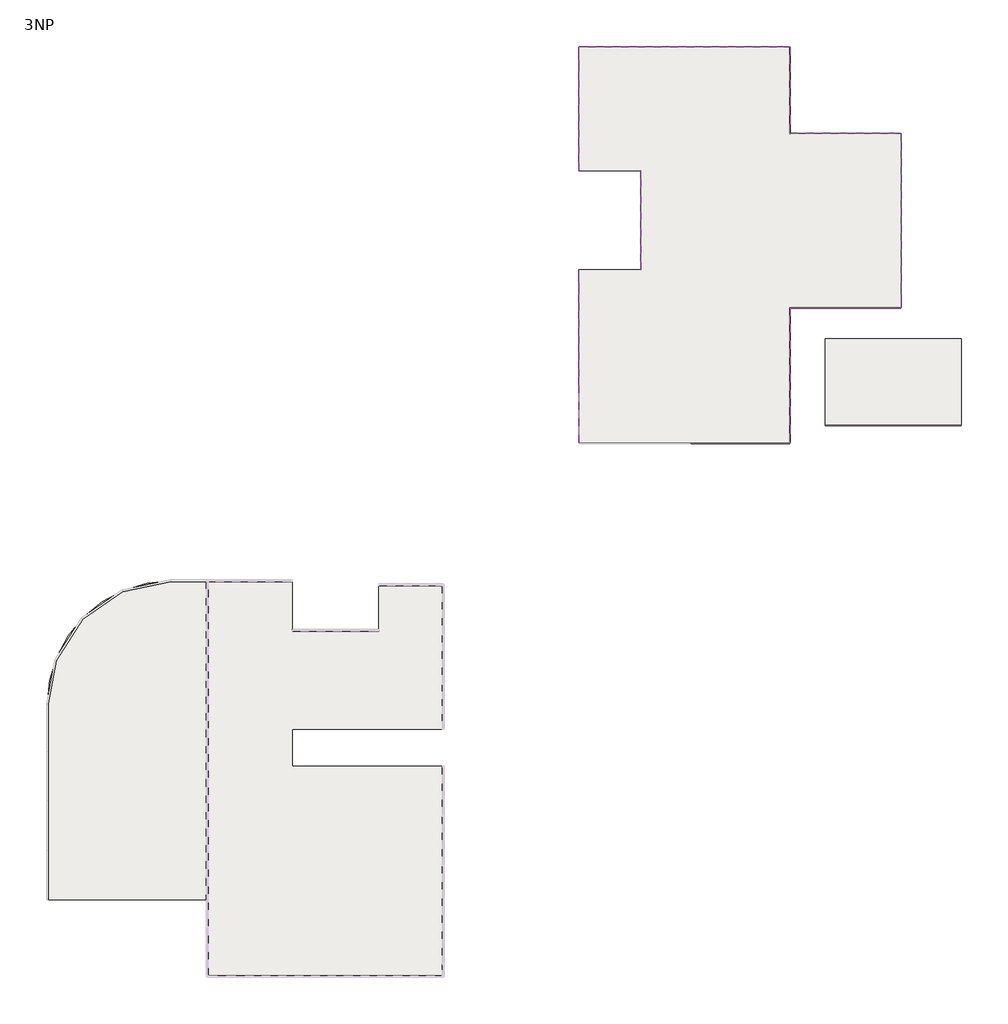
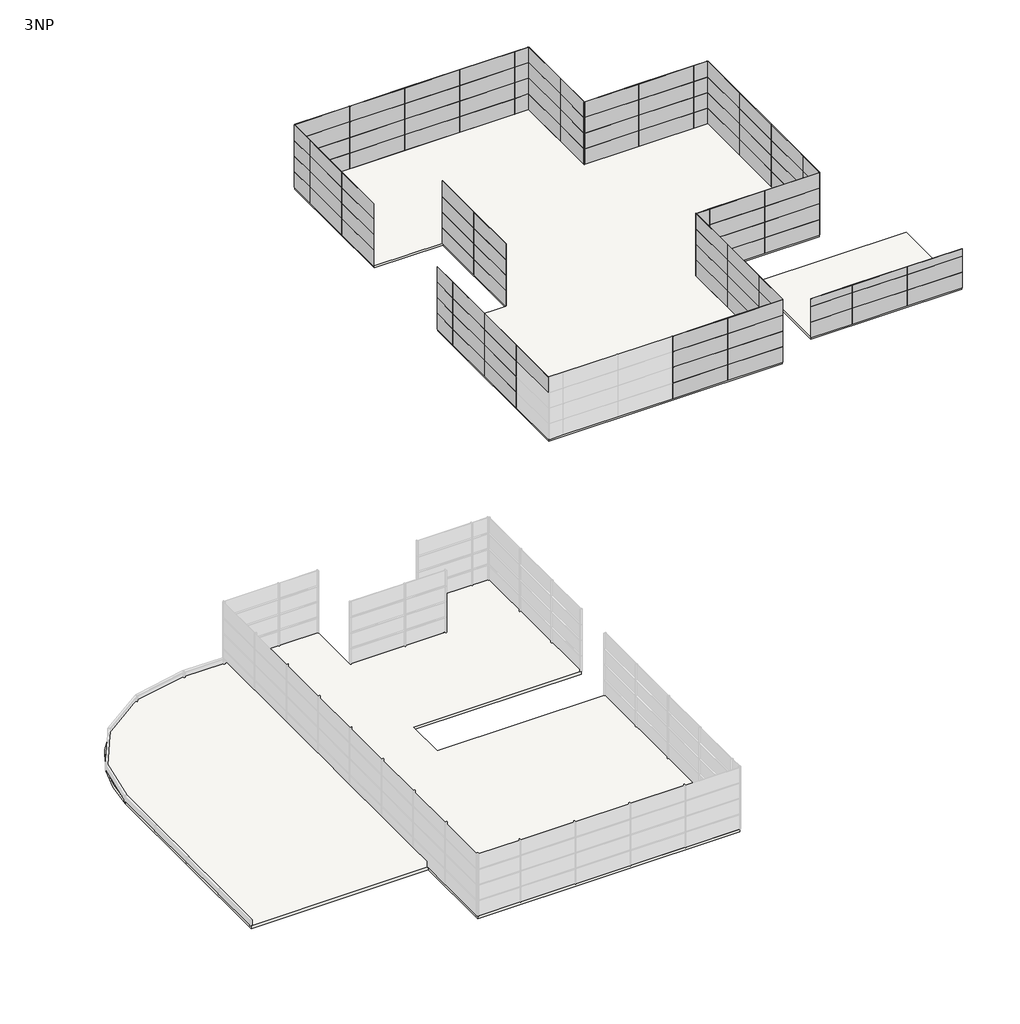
# One storey, part 4 of 4: 130 plates, 2 slabs.
"""IFC4 building model written with IfcOpenShell, lengths in millimetres."""

from ifc_helpers import new_model, si_unit, point, frame, frame_2d, origin, place, context, project, spatial, polyline, circle_curve, trimmed, segment, composite_curve, outline, extrude, transform, mapped, element, save
from components import system_panel_glazed_d6eabcf1, system_panel_glazed_926b6355, system_panel_glazed_d9fb9d0a, system_panel_glazed_4df6a082, system_panel_glazed_a266fa70, system_panel_glazed_e93bef2a, system_panel_glazed_76089698, system_panel_glazed_7578c6fa

model = new_model("IFC4")

# Units and contexts
model_context = context("Model", 3, world=origin())
ifc_project = project(units=[si_unit("LENGTHUNIT", "METRE", prefix="MILLI")], contexts=[model_context])

# Site, building, storey
site = spatial("IfcSite", under=ifc_project)
building = spatial("IfcBuilding", under=site)
storey = spatial("IfcBuildingStorey", under=building, Name="3NP", Elevation=12000.0)

# Plates
placement = place(None, origin())
system_panel_glazed_shape = system_panel_glazed_d6eabcf1(model_context)
element("IfcPlate", 1, ObjectType="System Panel : Glazed", at=placement, inside=storey, context=model_context, shape_type="MappedRepresentation", body=[
    mapped(system_panel_glazed_shape, transform((39503.2660975, 19519.7749227, 12000.0), x_axis=(-1.0, 0.0, 0.0), y_axis=(0.0, -1.0, 0.0), z_axis=(0.0, 0.0, 1.0))),
])
element("IfcPlate", 2, ObjectType="System Panel : Glazed", at=placement, inside=storey, context=model_context, shape_type="MappedRepresentation", body=[
    mapped(system_panel_glazed_shape, transform((35503.2660975, 19519.7749227, 12000.0), x_axis=(-1.0, 0.0, 0.0), y_axis=(0.0, -1.0, 0.0), z_axis=(0.0, 0.0, 1.0))),
])
element("IfcPlate", 3, ObjectType="System Panel : Glazed", at=placement, inside=storey, context=model_context, shape_type="MappedRepresentation", body=[
    mapped(system_panel_glazed_shape, transform((39503.2660975, 19519.7749227, 13200.0), x_axis=(-1.0, 0.0, 0.0), y_axis=(0.0, -1.0, 0.0), z_axis=(0.0, 0.0, 1.0))),
])
element("IfcPlate", 4, ObjectType="System Panel : Glazed", at=placement, inside=storey, context=model_context, shape_type="MappedRepresentation", body=[
    mapped(system_panel_glazed_shape, transform((35503.2660975, 19519.7749227, 13200.0), x_axis=(-1.0, 0.0, 0.0), y_axis=(0.0, -1.0, 0.0), z_axis=(0.0, 0.0, 1.0))),
])
element("IfcPlate", 5, ObjectType="System Panel : Glazed", at=placement, inside=storey, context=model_context, shape_type="MappedRepresentation", body=[
    mapped(system_panel_glazed_shape, transform((39503.2660975, 19519.7749227, 14400.0), x_axis=(-1.0, 0.0, 0.0), y_axis=(0.0, -1.0, 0.0), z_axis=(0.0, 0.0, 1.0))),
])
element("IfcPlate", 6, ObjectType="System Panel : Glazed", at=placement, inside=storey, context=model_context, shape_type="MappedRepresentation", body=[
    mapped(system_panel_glazed_shape, transform((35503.2660975, 19519.7749227, 14400.0), x_axis=(-1.0, 0.0, 0.0), y_axis=(0.0, -1.0, 0.0), z_axis=(0.0, 0.0, 1.0))),
])
element("IfcPlate", 7, ObjectType="System Panel : Glazed", at=placement, inside=storey, context=model_context, shape_type="MappedRepresentation", body=[
    mapped(system_panel_glazed_shape, transform((39503.2660975, 19519.7749227, 15600.0), x_axis=(-1.0, 0.0, 0.0), y_axis=(0.0, -1.0, 0.0), z_axis=(0.0, 0.0, 1.0))),
])
element("IfcPlate", 8, ObjectType="System Panel : Glazed", at=placement, inside=storey, context=model_context, shape_type="MappedRepresentation", body=[
    mapped(system_panel_glazed_shape, transform((35503.2660975, 19519.7749227, 15600.0), x_axis=(-1.0, 0.0, 0.0), y_axis=(0.0, -1.0, 0.0), z_axis=(0.0, 0.0, 1.0))),
])
element("IfcPlate", 9, ObjectType="System Panel : Glazed", at=placement, inside=storey, context=model_context, shape_type="MappedRepresentation", body=[
    mapped(system_panel_glazed_shape, transform((24503.2660975, 25519.7749227, 12000.0), x_axis=(0.0, 1.0, 0.0), y_axis=(-1.0, 0.0, 0.0), z_axis=(0.0, 0.0, 1.0))),
])
element("IfcPlate", 10, ObjectType="System Panel : Glazed", at=placement, inside=storey, context=model_context, shape_type="MappedRepresentation", body=[
    mapped(system_panel_glazed_shape, transform((24503.2660975, 29519.7749227, 12000.0), x_axis=(0.0, 1.0, 0.0), y_axis=(-1.0, 0.0, 0.0), z_axis=(0.0, 0.0, 1.0))),
])
element("IfcPlate", 11, ObjectType="System Panel : Glazed", at=placement, inside=storey, context=model_context, shape_type="MappedRepresentation", body=[
    mapped(system_panel_glazed_shape, transform((24503.2660975, 25519.7749227, 13200.0), x_axis=(0.0, 1.0, 0.0), y_axis=(-1.0, 0.0, 0.0), z_axis=(0.0, 0.0, 1.0))),
])
element("IfcPlate", 12, ObjectType="System Panel : Glazed", at=placement, inside=storey, context=model_context, shape_type="MappedRepresentation", body=[
    mapped(system_panel_glazed_shape, transform((24503.2660975, 29519.7749227, 13200.0), x_axis=(0.0, 1.0, 0.0), y_axis=(-1.0, 0.0, 0.0), z_axis=(0.0, 0.0, 1.0))),
])
element("IfcPlate", 13, ObjectType="System Panel : Glazed", at=placement, inside=storey, context=model_context, shape_type="MappedRepresentation", body=[
    mapped(system_panel_glazed_shape, transform((24503.2660975, 25519.7749227, 14400.0), x_axis=(0.0, 1.0, 0.0), y_axis=(-1.0, 0.0, 0.0), z_axis=(0.0, 0.0, 1.0))),
])
element("IfcPlate", 14, ObjectType="System Panel : Glazed", at=placement, inside=storey, context=model_context, shape_type="MappedRepresentation", body=[
    mapped(system_panel_glazed_shape, transform((24503.2660975, 29519.7749227, 14400.0), x_axis=(0.0, 1.0, 0.0), y_axis=(-1.0, 0.0, 0.0), z_axis=(0.0, 0.0, 1.0))),
])
element("IfcPlate", 15, ObjectType="System Panel : Glazed", at=placement, inside=storey, context=model_context, shape_type="MappedRepresentation", body=[
    mapped(system_panel_glazed_shape, transform((24503.2660975, 21519.7749227, 15600.0), x_axis=(0.0, 1.0, 0.0), y_axis=(-1.0, 0.0, 0.0), z_axis=(0.0, 0.0, 1.0))),
])
element("IfcPlate", 16, ObjectType="System Panel : Glazed", at=placement, inside=storey, context=model_context, shape_type="MappedRepresentation", body=[
    mapped(system_panel_glazed_shape, transform((24503.2660975, 25519.7749227, 15600.0), x_axis=(0.0, 1.0, 0.0), y_axis=(-1.0, 0.0, 0.0), z_axis=(0.0, 0.0, 1.0))),
])
element("IfcPlate", 17, ObjectType="System Panel : Glazed", at=placement, inside=storey, context=model_context, shape_type="MappedRepresentation", body=[
    mapped(system_panel_glazed_shape, transform((24503.2660975, 29519.7749227, 15600.0), x_axis=(0.0, 1.0, 0.0), y_axis=(-1.0, 0.0, 0.0), z_axis=(0.0, 0.0, 1.0))),
])
element("IfcPlate", 18, ObjectType="System Panel : Glazed", at=placement, inside=storey, context=model_context, shape_type="MappedRepresentation", body=[
    mapped(system_panel_glazed_shape, transform((29503.2660975, 35519.7749227, 12000.0), x_axis=(0.0, 1.0, 0.0), y_axis=(-1.0, 0.0, 0.0), z_axis=(0.0, 0.0, 1.0))),
])
element("IfcPlate", 19, ObjectType="System Panel : Glazed", at=placement, inside=storey, context=model_context, shape_type="MappedRepresentation", body=[
    mapped(system_panel_glazed_shape, transform((29503.2660975, 39519.7749227, 12000.0), x_axis=(0.0, 1.0, 0.0), y_axis=(-1.0, 0.0, 0.0), z_axis=(0.0, 0.0, 1.0))),
])
element("IfcPlate", 20, ObjectType="System Panel : Glazed", at=placement, inside=storey, context=model_context, shape_type="MappedRepresentation", body=[
    mapped(system_panel_glazed_shape, transform((29503.2660975, 35519.7749227, 13200.0), x_axis=(0.0, 1.0, 0.0), y_axis=(-1.0, 0.0, 0.0), z_axis=(0.0, 0.0, 1.0))),
])
element("IfcPlate", 21, ObjectType="System Panel : Glazed", at=placement, inside=storey, context=model_context, shape_type="MappedRepresentation", body=[
    mapped(system_panel_glazed_shape, transform((29503.2660975, 39519.7749227, 13200.0), x_axis=(0.0, 1.0, 0.0), y_axis=(-1.0, 0.0, 0.0), z_axis=(0.0, 0.0, 1.0))),
])
element("IfcPlate", 22, ObjectType="System Panel : Glazed", at=placement, inside=storey, context=model_context, shape_type="MappedRepresentation", body=[
    mapped(system_panel_glazed_shape, transform((29503.2660975, 35519.7749227, 14400.0), x_axis=(0.0, 1.0, 0.0), y_axis=(-1.0, 0.0, 0.0), z_axis=(0.0, 0.0, 1.0))),
])
element("IfcPlate", 23, ObjectType="System Panel : Glazed", at=placement, inside=storey, context=model_context, shape_type="MappedRepresentation", body=[
    mapped(system_panel_glazed_shape, transform((29503.2660975, 39519.7749227, 14400.0), x_axis=(0.0, 1.0, 0.0), y_axis=(-1.0, 0.0, 0.0), z_axis=(0.0, 0.0, 1.0))),
])
element("IfcPlate", 24, ObjectType="System Panel : Glazed", at=placement, inside=storey, context=model_context, shape_type="MappedRepresentation", body=[
    mapped(system_panel_glazed_shape, transform((29503.2660975, 35519.7749227, 15600.0), x_axis=(0.0, 1.0, 0.0), y_axis=(-1.0, 0.0, 0.0), z_axis=(0.0, 0.0, 1.0))),
])
element("IfcPlate", 25, ObjectType="System Panel : Glazed", at=placement, inside=storey, context=model_context, shape_type="MappedRepresentation", body=[
    mapped(system_panel_glazed_shape, transform((29503.2660975, 39519.7749227, 15600.0), x_axis=(0.0, 1.0, 0.0), y_axis=(-1.0, 0.0, 0.0), z_axis=(0.0, 0.0, 1.0))),
])
element("IfcPlate", 26, ObjectType="System Panel : Glazed", at=placement, inside=storey, context=model_context, shape_type="MappedRepresentation", body=[
    mapped(system_panel_glazed_shape, transform((24503.2660975, 43519.7749227, 12000.0), x_axis=(0.0, 1.0, 0.0), y_axis=(-1.0, 0.0, 0.0), z_axis=(0.0, 0.0, 1.0))),
])
element("IfcPlate", 27, ObjectType="System Panel : Glazed", at=placement, inside=storey, context=model_context, shape_type="MappedRepresentation", body=[
    mapped(system_panel_glazed_shape, transform((24503.2660975, 47519.7749227, 12000.0), x_axis=(0.0, 1.0, 0.0), y_axis=(-1.0, 0.0, 0.0), z_axis=(0.0, 0.0, 1.0))),
])
element("IfcPlate", 28, ObjectType="System Panel : Glazed", at=placement, inside=storey, context=model_context, shape_type="MappedRepresentation", body=[
    mapped(system_panel_glazed_shape, transform((24503.2660975, 43519.7749227, 13200.0), x_axis=(0.0, 1.0, 0.0), y_axis=(-1.0, 0.0, 0.0), z_axis=(0.0, 0.0, 1.0))),
])
element("IfcPlate", 29, ObjectType="System Panel : Glazed", at=placement, inside=storey, context=model_context, shape_type="MappedRepresentation", body=[
    mapped(system_panel_glazed_shape, transform((24503.2660975, 47519.7749227, 13200.0), x_axis=(0.0, 1.0, 0.0), y_axis=(-1.0, 0.0, 0.0), z_axis=(0.0, 0.0, 1.0))),
])
element("IfcPlate", 30, ObjectType="System Panel : Glazed", at=placement, inside=storey, context=model_context, shape_type="MappedRepresentation", body=[
    mapped(system_panel_glazed_shape, transform((24503.2660975, 43519.7749227, 14400.0), x_axis=(0.0, 1.0, 0.0), y_axis=(-1.0, 0.0, 0.0), z_axis=(0.0, 0.0, 1.0))),
])
element("IfcPlate", 31, ObjectType="System Panel : Glazed", at=placement, inside=storey, context=model_context, shape_type="MappedRepresentation", body=[
    mapped(system_panel_glazed_shape, transform((24503.2660975, 47519.7749227, 14400.0), x_axis=(0.0, 1.0, 0.0), y_axis=(-1.0, 0.0, 0.0), z_axis=(0.0, 0.0, 1.0))),
])
element("IfcPlate", 32, ObjectType="System Panel : Glazed", at=placement, inside=storey, context=model_context, shape_type="MappedRepresentation", body=[
    mapped(system_panel_glazed_shape, transform((24503.2660975, 43519.7749227, 15600.0), x_axis=(0.0, 1.0, 0.0), y_axis=(-1.0, 0.0, 0.0), z_axis=(0.0, 0.0, 1.0))),
])
element("IfcPlate", 33, ObjectType="System Panel : Glazed", at=placement, inside=storey, context=model_context, shape_type="MappedRepresentation", body=[
    mapped(system_panel_glazed_shape, transform((24503.2660975, 47519.7749227, 15600.0), x_axis=(0.0, 1.0, 0.0), y_axis=(-1.0, 0.0, 0.0), z_axis=(0.0, 0.0, 1.0))),
])
element("IfcPlate", 34, ObjectType="System Panel : Glazed", at=placement, inside=storey, context=model_context, shape_type="MappedRepresentation", body=[
    mapped(system_panel_glazed_shape, transform((48503.2660975, 30457.4517739, 12000.0), x_axis=(-1.0, 0.0, 0.0), y_axis=(0.0, -1.0, 0.0), z_axis=(0.0, 0.0, 1.0))),
])
element("IfcPlate", 35, ObjectType="System Panel : Glazed", at=placement, inside=storey, context=model_context, shape_type="MappedRepresentation", body=[
    mapped(system_panel_glazed_shape, transform((44503.2660975, 30457.4517739, 12000.0), x_axis=(-1.0, 0.0, 0.0), y_axis=(0.0, -1.0, 0.0), z_axis=(0.0, 0.0, 1.0))),
])
element("IfcPlate", 36, ObjectType="System Panel : Glazed", at=placement, inside=storey, context=model_context, shape_type="MappedRepresentation", body=[
    mapped(system_panel_glazed_shape, transform((48503.2660975, 30457.4517739, 13200.0), x_axis=(-1.0, 0.0, 0.0), y_axis=(0.0, -1.0, 0.0), z_axis=(0.0, 0.0, 1.0))),
])
element("IfcPlate", 37, ObjectType="System Panel : Glazed", at=placement, inside=storey, context=model_context, shape_type="MappedRepresentation", body=[
    mapped(system_panel_glazed_shape, transform((44503.2660975, 30457.4517739, 13200.0), x_axis=(-1.0, 0.0, 0.0), y_axis=(0.0, -1.0, 0.0), z_axis=(0.0, 0.0, 1.0))),
])
element("IfcPlate", 38, ObjectType="System Panel : Glazed", at=placement, inside=storey, context=model_context, shape_type="MappedRepresentation", body=[
    mapped(system_panel_glazed_shape, transform((48503.2660975, 30457.4517739, 14400.0), x_axis=(-1.0, 0.0, 0.0), y_axis=(0.0, -1.0, 0.0), z_axis=(0.0, 0.0, 1.0))),
])
element("IfcPlate", 39, ObjectType="System Panel : Glazed", at=placement, inside=storey, context=model_context, shape_type="MappedRepresentation", body=[
    mapped(system_panel_glazed_shape, transform((44503.2660975, 30457.4517739, 14400.0), x_axis=(-1.0, 0.0, 0.0), y_axis=(0.0, -1.0, 0.0), z_axis=(0.0, 0.0, 1.0))),
])
element("IfcPlate", 40, ObjectType="System Panel : Glazed", at=placement, inside=storey, context=model_context, shape_type="MappedRepresentation", body=[
    mapped(system_panel_glazed_shape, transform((48503.2660975, 30457.4517739, 15600.0), x_axis=(-1.0, 0.0, 0.0), y_axis=(0.0, -1.0, 0.0), z_axis=(0.0, 0.0, 1.0))),
])
element("IfcPlate", 41, ObjectType="System Panel : Glazed", at=placement, inside=storey, context=model_context, shape_type="MappedRepresentation", body=[
    mapped(system_panel_glazed_shape, transform((44503.2660975, 30457.4517739, 15600.0), x_axis=(-1.0, 0.0, 0.0), y_axis=(0.0, -1.0, 0.0), z_axis=(0.0, 0.0, 1.0))),
])
element("IfcPlate", 42, ObjectType="System Panel : Glazed", at=placement, inside=storey, context=model_context, shape_type="MappedRepresentation", body=[
    mapped(system_panel_glazed_shape, transform((53401.4778879, 20957.9625489, 12000.0), x_axis=(-1.0, 0.0, 0.0), y_axis=(0.0, -1.0, 0.0), z_axis=(0.0, 0.0, 1.0))),
])
element("IfcPlate", 43, ObjectType="System Panel : Glazed", at=placement, inside=storey, context=model_context, shape_type="MappedRepresentation", body=[
    mapped(system_panel_glazed_shape, transform((49401.4778879, 20957.9625489, 12000.0), x_axis=(-1.0, 0.0, 0.0), y_axis=(0.0, -1.0, 0.0), z_axis=(0.0, 0.0, 1.0))),
])
element("IfcPlate", 44, ObjectType="System Panel : Glazed", at=placement, inside=storey, context=model_context, shape_type="MappedRepresentation", body=[
    mapped(system_panel_glazed_shape, transform((53401.4778879, 20957.9625489, 13200.0), x_axis=(-1.0, 0.0, 0.0), y_axis=(0.0, -1.0, 0.0), z_axis=(0.0, 0.0, 1.0))),
])
element("IfcPlate", 45, ObjectType="System Panel : Glazed", at=placement, inside=storey, context=model_context, shape_type="MappedRepresentation", body=[
    mapped(system_panel_glazed_shape, transform((49401.4778879, 20957.9625489, 13200.0), x_axis=(-1.0, 0.0, 0.0), y_axis=(0.0, -1.0, 0.0), z_axis=(0.0, 0.0, 1.0))),
])
element("IfcPlate", 46, ObjectType="System Panel : Glazed", at=placement, inside=storey, context=model_context, shape_type="MappedRepresentation", body=[
    mapped(system_panel_glazed_shape, transform((26503.2660975, 51519.7749227, 12000.0), x_axis=(1.0, 0.0, 0.0), y_axis=(0.0, 1.0, 0.0), z_axis=(0.0, 0.0, 1.0))),
])
element("IfcPlate", 47, ObjectType="System Panel : Glazed", at=placement, inside=storey, context=model_context, shape_type="MappedRepresentation", body=[
    mapped(system_panel_glazed_shape, transform((30503.2660975, 51519.7749227, 12000.0), x_axis=(1.0, 0.0, 0.0), y_axis=(0.0, 1.0, 0.0), z_axis=(0.0, 0.0, 1.0))),
])
element("IfcPlate", 48, ObjectType="System Panel : Glazed", at=placement, inside=storey, context=model_context, shape_type="MappedRepresentation", body=[
    mapped(system_panel_glazed_shape, transform((34503.2660975, 51519.7749227, 12000.0), x_axis=(1.0, 0.0, 0.0), y_axis=(0.0, 1.0, 0.0), z_axis=(0.0, 0.0, 1.0))),
])
element("IfcPlate", 49, ObjectType="System Panel : Glazed", at=placement, inside=storey, context=model_context, shape_type="MappedRepresentation", body=[
    mapped(system_panel_glazed_shape, transform((38503.2660975, 51519.7749227, 12000.0), x_axis=(1.0, 0.0, 0.0), y_axis=(0.0, 1.0, 0.0), z_axis=(0.0, 0.0, 1.0))),
])
element("IfcPlate", 50, ObjectType="System Panel : Glazed", at=placement, inside=storey, context=model_context, shape_type="MappedRepresentation", body=[
    mapped(system_panel_glazed_shape, transform((26503.2660975, 51519.7749227, 13200.0), x_axis=(1.0, 0.0, 0.0), y_axis=(0.0, 1.0, 0.0), z_axis=(0.0, 0.0, 1.0))),
])
element("IfcPlate", 51, ObjectType="System Panel : Glazed", at=placement, inside=storey, context=model_context, shape_type="MappedRepresentation", body=[
    mapped(system_panel_glazed_shape, transform((30503.2660975, 51519.7749227, 13200.0), x_axis=(1.0, 0.0, 0.0), y_axis=(0.0, 1.0, 0.0), z_axis=(0.0, 0.0, 1.0))),
])
element("IfcPlate", 52, ObjectType="System Panel : Glazed", at=placement, inside=storey, context=model_context, shape_type="MappedRepresentation", body=[
    mapped(system_panel_glazed_shape, transform((34503.2660975, 51519.7749227, 13200.0), x_axis=(1.0, 0.0, 0.0), y_axis=(0.0, 1.0, 0.0), z_axis=(0.0, 0.0, 1.0))),
])
element("IfcPlate", 53, ObjectType="System Panel : Glazed", at=placement, inside=storey, context=model_context, shape_type="MappedRepresentation", body=[
    mapped(system_panel_glazed_shape, transform((38503.2660975, 51519.7749227, 13200.0), x_axis=(1.0, 0.0, 0.0), y_axis=(0.0, 1.0, 0.0), z_axis=(0.0, 0.0, 1.0))),
])
element("IfcPlate", 54, ObjectType="System Panel : Glazed", at=placement, inside=storey, context=model_context, shape_type="MappedRepresentation", body=[
    mapped(system_panel_glazed_shape, transform((26503.2660975, 51519.7749227, 14400.0), x_axis=(1.0, 0.0, 0.0), y_axis=(0.0, 1.0, 0.0), z_axis=(0.0, 0.0, 1.0))),
])
element("IfcPlate", 55, ObjectType="System Panel : Glazed", at=placement, inside=storey, context=model_context, shape_type="MappedRepresentation", body=[
    mapped(system_panel_glazed_shape, transform((30503.2660975, 51519.7749227, 14400.0), x_axis=(1.0, 0.0, 0.0), y_axis=(0.0, 1.0, 0.0), z_axis=(0.0, 0.0, 1.0))),
])
element("IfcPlate", 56, ObjectType="System Panel : Glazed", at=placement, inside=storey, context=model_context, shape_type="MappedRepresentation", body=[
    mapped(system_panel_glazed_shape, transform((34503.2660975, 51519.7749227, 14400.0), x_axis=(1.0, 0.0, 0.0), y_axis=(0.0, 1.0, 0.0), z_axis=(0.0, 0.0, 1.0))),
])
element("IfcPlate", 57, ObjectType="System Panel : Glazed", at=placement, inside=storey, context=model_context, shape_type="MappedRepresentation", body=[
    mapped(system_panel_glazed_shape, transform((38503.2660975, 51519.7749227, 14400.0), x_axis=(1.0, 0.0, 0.0), y_axis=(0.0, 1.0, 0.0), z_axis=(0.0, 0.0, 1.0))),
])
element("IfcPlate", 58, ObjectType="System Panel : Glazed", at=placement, inside=storey, context=model_context, shape_type="MappedRepresentation", body=[
    mapped(system_panel_glazed_shape, transform((26503.2660975, 51519.7749227, 15600.0), x_axis=(1.0, 0.0, 0.0), y_axis=(0.0, 1.0, 0.0), z_axis=(0.0, 0.0, 1.0))),
])
element("IfcPlate", 59, ObjectType="System Panel : Glazed", at=placement, inside=storey, context=model_context, shape_type="MappedRepresentation", body=[
    mapped(system_panel_glazed_shape, transform((30503.2660975, 51519.7749227, 15600.0), x_axis=(1.0, 0.0, 0.0), y_axis=(0.0, 1.0, 0.0), z_axis=(0.0, 0.0, 1.0))),
])
element("IfcPlate", 60, ObjectType="System Panel : Glazed", at=placement, inside=storey, context=model_context, shape_type="MappedRepresentation", body=[
    mapped(system_panel_glazed_shape, transform((34503.2660975, 51519.7749227, 15600.0), x_axis=(1.0, 0.0, 0.0), y_axis=(0.0, 1.0, 0.0), z_axis=(0.0, 0.0, 1.0))),
])
element("IfcPlate", 61, ObjectType="System Panel : Glazed", at=placement, inside=storey, context=model_context, shape_type="MappedRepresentation", body=[
    mapped(system_panel_glazed_shape, transform((38503.2660975, 51519.7749227, 15600.0), x_axis=(1.0, 0.0, 0.0), y_axis=(0.0, 1.0, 0.0), z_axis=(0.0, 0.0, 1.0))),
])
element("IfcPlate", 62, ObjectType="System Panel : Glazed", at=placement, inside=storey, context=model_context, shape_type="MappedRepresentation", body=[
    mapped(system_panel_glazed_shape, transform((41503.2660975, 49519.7749227, 12000.0), x_axis=(0.0, -1.0, 0.0), y_axis=(1.0, 0.0, 0.0), z_axis=(0.0, 0.0, 1.0))),
])
element("IfcPlate", 63, ObjectType="System Panel : Glazed", at=placement, inside=storey, context=model_context, shape_type="MappedRepresentation", body=[
    mapped(system_panel_glazed_shape, transform((41503.2660975, 49519.7749227, 13200.0), x_axis=(0.0, -1.0, 0.0), y_axis=(1.0, 0.0, 0.0), z_axis=(0.0, 0.0, 1.0))),
])
element("IfcPlate", 64, ObjectType="System Panel : Glazed", at=placement, inside=storey, context=model_context, shape_type="MappedRepresentation", body=[
    mapped(system_panel_glazed_shape, transform((41503.2660975, 49519.7749227, 14400.0), x_axis=(0.0, -1.0, 0.0), y_axis=(1.0, 0.0, 0.0), z_axis=(0.0, 0.0, 1.0))),
])
element("IfcPlate", 65, ObjectType="System Panel : Glazed", at=placement, inside=storey, context=model_context, shape_type="MappedRepresentation", body=[
    mapped(system_panel_glazed_shape, transform((41503.2660975, 49519.7749227, 15600.0), x_axis=(0.0, -1.0, 0.0), y_axis=(1.0, 0.0, 0.0), z_axis=(0.0, 0.0, 1.0))),
])
element("IfcPlate", 66, ObjectType="System Panel : Glazed", at=placement, inside=storey, context=model_context, shape_type="MappedRepresentation", body=[
    mapped(system_panel_glazed_shape, transform((43503.2660975, 44519.7749227, 12000.0), x_axis=(1.0, 0.0, 0.0), y_axis=(0.0, 1.0, 0.0), z_axis=(0.0, 0.0, 1.0))),
])
element("IfcPlate", 67, ObjectType="System Panel : Glazed", at=placement, inside=storey, context=model_context, shape_type="MappedRepresentation", body=[
    mapped(system_panel_glazed_shape, transform((47503.2660975, 44519.7749227, 12000.0), x_axis=(1.0, 0.0, 0.0), y_axis=(0.0, 1.0, 0.0), z_axis=(0.0, 0.0, 1.0))),
])
element("IfcPlate", 68, ObjectType="System Panel : Glazed", at=placement, inside=storey, context=model_context, shape_type="MappedRepresentation", body=[
    mapped(system_panel_glazed_shape, transform((43503.2660975, 44519.7749227, 13200.0), x_axis=(1.0, 0.0, 0.0), y_axis=(0.0, 1.0, 0.0), z_axis=(0.0, 0.0, 1.0))),
])
element("IfcPlate", 69, ObjectType="System Panel : Glazed", at=placement, inside=storey, context=model_context, shape_type="MappedRepresentation", body=[
    mapped(system_panel_glazed_shape, transform((47503.2660975, 44519.7749227, 13200.0), x_axis=(1.0, 0.0, 0.0), y_axis=(0.0, 1.0, 0.0), z_axis=(0.0, 0.0, 1.0))),
])
element("IfcPlate", 70, ObjectType="System Panel : Glazed", at=placement, inside=storey, context=model_context, shape_type="MappedRepresentation", body=[
    mapped(system_panel_glazed_shape, transform((43503.2660975, 44519.7749227, 14400.0), x_axis=(1.0, 0.0, 0.0), y_axis=(0.0, 1.0, 0.0), z_axis=(0.0, 0.0, 1.0))),
])
element("IfcPlate", 71, ObjectType="System Panel : Glazed", at=placement, inside=storey, context=model_context, shape_type="MappedRepresentation", body=[
    mapped(system_panel_glazed_shape, transform((47503.2660975, 44519.7749227, 14400.0), x_axis=(1.0, 0.0, 0.0), y_axis=(0.0, 1.0, 0.0), z_axis=(0.0, 0.0, 1.0))),
])
element("IfcPlate", 72, ObjectType="System Panel : Glazed", at=placement, inside=storey, context=model_context, shape_type="MappedRepresentation", body=[
    mapped(system_panel_glazed_shape, transform((43503.2660975, 44519.7749227, 15600.0), x_axis=(1.0, 0.0, 0.0), y_axis=(0.0, 1.0, 0.0), z_axis=(0.0, 0.0, 1.0))),
])
element("IfcPlate", 73, ObjectType="System Panel : Glazed", at=placement, inside=storey, context=model_context, shape_type="MappedRepresentation", body=[
    mapped(system_panel_glazed_shape, transform((47503.2660975, 44519.7749227, 15600.0), x_axis=(1.0, 0.0, 0.0), y_axis=(0.0, 1.0, 0.0), z_axis=(0.0, 0.0, 1.0))),
])
element("IfcPlate", 74, ObjectType="System Panel : Glazed", at=placement, inside=storey, context=model_context, shape_type="MappedRepresentation", body=[
    mapped(system_panel_glazed_shape, transform((50503.2660975, 42519.7749227, 12000.0), x_axis=(0.0, -1.0, 0.0), y_axis=(1.0, 0.0, 0.0), z_axis=(0.0, 0.0, 1.0))),
])
element("IfcPlate", 75, ObjectType="System Panel : Glazed", at=placement, inside=storey, context=model_context, shape_type="MappedRepresentation", body=[
    mapped(system_panel_glazed_shape, transform((50503.2660975, 38519.7749227, 12000.0), x_axis=(0.0, -1.0, 0.0), y_axis=(1.0, 0.0, 0.0), z_axis=(0.0, 0.0, 1.0))),
])
element("IfcPlate", 76, ObjectType="System Panel : Glazed", at=placement, inside=storey, context=model_context, shape_type="MappedRepresentation", body=[
    mapped(system_panel_glazed_shape, transform((50503.2660975, 34519.7749227, 12000.0), x_axis=(0.0, -1.0, 0.0), y_axis=(1.0, 0.0, 0.0), z_axis=(0.0, 0.0, 1.0))),
])
element("IfcPlate", 77, ObjectType="System Panel : Glazed", at=placement, inside=storey, context=model_context, shape_type="MappedRepresentation", body=[
    mapped(system_panel_glazed_shape, transform((50503.2660975, 42519.7749227, 13200.0), x_axis=(0.0, -1.0, 0.0), y_axis=(1.0, 0.0, 0.0), z_axis=(0.0, 0.0, 1.0))),
])
element("IfcPlate", 78, ObjectType="System Panel : Glazed", at=placement, inside=storey, context=model_context, shape_type="MappedRepresentation", body=[
    mapped(system_panel_glazed_shape, transform((50503.2660975, 38519.7749227, 13200.0), x_axis=(0.0, -1.0, 0.0), y_axis=(1.0, 0.0, 0.0), z_axis=(0.0, 0.0, 1.0))),
])
element("IfcPlate", 79, ObjectType="System Panel : Glazed", at=placement, inside=storey, context=model_context, shape_type="MappedRepresentation", body=[
    mapped(system_panel_glazed_shape, transform((50503.2660975, 34519.7749227, 13200.0), x_axis=(0.0, -1.0, 0.0), y_axis=(1.0, 0.0, 0.0), z_axis=(0.0, 0.0, 1.0))),
])
element("IfcPlate", 80, ObjectType="System Panel : Glazed", at=placement, inside=storey, context=model_context, shape_type="MappedRepresentation", body=[
    mapped(system_panel_glazed_shape, transform((50503.2660975, 42519.7749227, 14400.0), x_axis=(0.0, -1.0, 0.0), y_axis=(1.0, 0.0, 0.0), z_axis=(0.0, 0.0, 1.0))),
])
element("IfcPlate", 81, ObjectType="System Panel : Glazed", at=placement, inside=storey, context=model_context, shape_type="MappedRepresentation", body=[
    mapped(system_panel_glazed_shape, transform((50503.2660975, 38519.7749227, 14400.0), x_axis=(0.0, -1.0, 0.0), y_axis=(1.0, 0.0, 0.0), z_axis=(0.0, 0.0, 1.0))),
])
element("IfcPlate", 82, ObjectType="System Panel : Glazed", at=placement, inside=storey, context=model_context, shape_type="MappedRepresentation", body=[
    mapped(system_panel_glazed_shape, transform((50503.2660975, 34519.7749227, 14400.0), x_axis=(0.0, -1.0, 0.0), y_axis=(1.0, 0.0, 0.0), z_axis=(0.0, 0.0, 1.0))),
])
element("IfcPlate", 83, ObjectType="System Panel : Glazed", at=placement, inside=storey, context=model_context, shape_type="MappedRepresentation", body=[
    mapped(system_panel_glazed_shape, transform((50503.2660975, 42519.7749227, 15600.0), x_axis=(0.0, -1.0, 0.0), y_axis=(1.0, 0.0, 0.0), z_axis=(0.0, 0.0, 1.0))),
])
element("IfcPlate", 84, ObjectType="System Panel : Glazed", at=placement, inside=storey, context=model_context, shape_type="MappedRepresentation", body=[
    mapped(system_panel_glazed_shape, transform((50503.2660975, 38519.7749227, 15600.0), x_axis=(0.0, -1.0, 0.0), y_axis=(1.0, 0.0, 0.0), z_axis=(0.0, 0.0, 1.0))),
])
element("IfcPlate", 85, ObjectType="System Panel : Glazed", at=placement, inside=storey, context=model_context, shape_type="MappedRepresentation", body=[
    mapped(system_panel_glazed_shape, transform((50503.2660975, 34519.7749227, 15600.0), x_axis=(0.0, -1.0, 0.0), y_axis=(1.0, 0.0, 0.0), z_axis=(0.0, 0.0, 1.0))),
])
element("IfcPlate", 86, ObjectType="System Panel : Glazed", at=placement, inside=storey, context=model_context, shape_type="MappedRepresentation", body=[
    mapped(system_panel_glazed_shape, transform((41503.2660975, 28457.4517739, 12000.0), x_axis=(0.0, -1.0, 0.0), y_axis=(1.0, 0.0, 0.0), z_axis=(0.0, 0.0, 1.0))),
])
element("IfcPlate", 87, ObjectType="System Panel : Glazed", at=placement, inside=storey, context=model_context, shape_type="MappedRepresentation", body=[
    mapped(system_panel_glazed_shape, transform((41503.2660975, 24457.4517739, 12000.0), x_axis=(0.0, -1.0, 0.0), y_axis=(1.0, 0.0, 0.0), z_axis=(0.0, 0.0, 1.0))),
])
element("IfcPlate", 88, ObjectType="System Panel : Glazed", at=placement, inside=storey, context=model_context, shape_type="MappedRepresentation", body=[
    mapped(system_panel_glazed_shape, transform((41503.2660975, 28457.4517739, 13200.0), x_axis=(0.0, -1.0, 0.0), y_axis=(1.0, 0.0, 0.0), z_axis=(0.0, 0.0, 1.0))),
])
element("IfcPlate", 89, ObjectType="System Panel : Glazed", at=placement, inside=storey, context=model_context, shape_type="MappedRepresentation", body=[
    mapped(system_panel_glazed_shape, transform((41503.2660975, 24457.4517739, 13200.0), x_axis=(0.0, -1.0, 0.0), y_axis=(1.0, 0.0, 0.0), z_axis=(0.0, 0.0, 1.0))),
])
element("IfcPlate", 90, ObjectType="System Panel : Glazed", at=placement, inside=storey, context=model_context, shape_type="MappedRepresentation", body=[
    mapped(system_panel_glazed_shape, transform((41503.2660975, 28457.4517739, 14400.0), x_axis=(0.0, -1.0, 0.0), y_axis=(1.0, 0.0, 0.0), z_axis=(0.0, 0.0, 1.0))),
])
element("IfcPlate", 91, ObjectType="System Panel : Glazed", at=placement, inside=storey, context=model_context, shape_type="MappedRepresentation", body=[
    mapped(system_panel_glazed_shape, transform((41503.2660975, 24457.4517739, 14400.0), x_axis=(0.0, -1.0, 0.0), y_axis=(1.0, 0.0, 0.0), z_axis=(0.0, 0.0, 1.0))),
])
element("IfcPlate", 92, ObjectType="System Panel : Glazed", at=placement, inside=storey, context=model_context, shape_type="MappedRepresentation", body=[
    mapped(system_panel_glazed_shape, transform((41503.2660975, 28457.4517739, 15600.0), x_axis=(0.0, -1.0, 0.0), y_axis=(1.0, 0.0, 0.0), z_axis=(0.0, 0.0, 1.0))),
])
element("IfcPlate", 93, ObjectType="System Panel : Glazed", at=placement, inside=storey, context=model_context, shape_type="MappedRepresentation", body=[
    mapped(system_panel_glazed_shape, transform((41503.2660975, 24457.4517739, 15600.0), x_axis=(0.0, -1.0, 0.0), y_axis=(1.0, 0.0, 0.0), z_axis=(0.0, 0.0, 1.0))),
])
system_panel_glazed_2_shape = system_panel_glazed_926b6355(model_context)
element("IfcPlate", 94, ObjectType="System Panel : Glazed", at=placement, inside=storey, context=model_context, shape_type="MappedRepresentation", body=[
    mapped(system_panel_glazed_2_shape, transform((42003.2660975, 30457.4517739, 12000.0), x_axis=(-1.0, 0.0, 0.0), y_axis=(0.0, -1.0, 0.0), z_axis=(0.0, 0.0, 1.0))),
])
element("IfcPlate", 95, ObjectType="System Panel : Glazed", at=placement, inside=storey, context=model_context, shape_type="MappedRepresentation", body=[
    mapped(system_panel_glazed_2_shape, transform((42003.2660975, 30457.4517739, 13200.0), x_axis=(-1.0, 0.0, 0.0), y_axis=(0.0, -1.0, 0.0), z_axis=(0.0, 0.0, 1.0))),
])
element("IfcPlate", 96, ObjectType="System Panel : Glazed", at=placement, inside=storey, context=model_context, shape_type="MappedRepresentation", body=[
    mapped(system_panel_glazed_2_shape, transform((42003.2660975, 30457.4517739, 14400.0), x_axis=(-1.0, 0.0, 0.0), y_axis=(0.0, -1.0, 0.0), z_axis=(0.0, 0.0, 1.0))),
])
element("IfcPlate", 97, ObjectType="System Panel : Glazed", at=placement, inside=storey, context=model_context, shape_type="MappedRepresentation", body=[
    mapped(system_panel_glazed_2_shape, transform((42003.2660975, 30457.4517739, 15600.0), x_axis=(-1.0, 0.0, 0.0), y_axis=(0.0, -1.0, 0.0), z_axis=(0.0, 0.0, 1.0))),
])
element("IfcPlate", 98, ObjectType="System Panel : Glazed", at=placement, inside=storey, context=model_context, shape_type="MappedRepresentation", body=[
    mapped(system_panel_glazed_2_shape, transform((41003.2660975, 51519.7749227, 12000.0), x_axis=(1.0, 0.0, 0.0), y_axis=(0.0, 1.0, 0.0), z_axis=(0.0, 0.0, 1.0))),
])
element("IfcPlate", 99, ObjectType="System Panel : Glazed", at=placement, inside=storey, context=model_context, shape_type="MappedRepresentation", body=[
    mapped(system_panel_glazed_2_shape, transform((41003.2660975, 51519.7749227, 13200.0), x_axis=(1.0, 0.0, 0.0), y_axis=(0.0, 1.0, 0.0), z_axis=(0.0, 0.0, 1.0))),
])
element("IfcPlate", 100, ObjectType="System Panel : Glazed", at=placement, inside=storey, context=model_context, shape_type="MappedRepresentation", body=[
    mapped(system_panel_glazed_2_shape, transform((41003.2660975, 51519.7749227, 14400.0), x_axis=(1.0, 0.0, 0.0), y_axis=(0.0, 1.0, 0.0), z_axis=(0.0, 0.0, 1.0))),
])
element("IfcPlate", 101, ObjectType="System Panel : Glazed", at=placement, inside=storey, context=model_context, shape_type="MappedRepresentation", body=[
    mapped(system_panel_glazed_2_shape, transform((41003.2660975, 51519.7749227, 15600.0), x_axis=(1.0, 0.0, 0.0), y_axis=(0.0, 1.0, 0.0), z_axis=(0.0, 0.0, 1.0))),
])
element("IfcPlate", 102, ObjectType="System Panel : Glazed", at=placement, inside=storey, context=model_context, shape_type="MappedRepresentation", body=[
    mapped(system_panel_glazed_2_shape, transform((50003.2660975, 44519.7749227, 12000.0), x_axis=(1.0, 0.0, 0.0), y_axis=(0.0, 1.0, 0.0), z_axis=(0.0, 0.0, 1.0))),
])
element("IfcPlate", 103, ObjectType="System Panel : Glazed", at=placement, inside=storey, context=model_context, shape_type="MappedRepresentation", body=[
    mapped(system_panel_glazed_2_shape, transform((50003.2660975, 44519.7749227, 13200.0), x_axis=(1.0, 0.0, 0.0), y_axis=(0.0, 1.0, 0.0), z_axis=(0.0, 0.0, 1.0))),
])
element("IfcPlate", 104, ObjectType="System Panel : Glazed", at=placement, inside=storey, context=model_context, shape_type="MappedRepresentation", body=[
    mapped(system_panel_glazed_2_shape, transform((50003.2660975, 44519.7749227, 14400.0), x_axis=(1.0, 0.0, 0.0), y_axis=(0.0, 1.0, 0.0), z_axis=(0.0, 0.0, 1.0))),
])
element("IfcPlate", 105, ObjectType="System Panel : Glazed", at=placement, inside=storey, context=model_context, shape_type="MappedRepresentation", body=[
    mapped(system_panel_glazed_2_shape, transform((50003.2660975, 44519.7749227, 15600.0), x_axis=(1.0, 0.0, 0.0), y_axis=(0.0, 1.0, 0.0), z_axis=(0.0, 0.0, 1.0))),
])
system_panel_glazed_3_shape = system_panel_glazed_d9fb9d0a(model_context)
element("IfcPlate", 106, ObjectType="System Panel : Glazed", at=placement, inside=storey, context=model_context, shape_type="MappedRepresentation", body=[
    mapped(system_panel_glazed_3_shape, transform((24503.2660975, 32519.7749227, 12000.0), x_axis=(0.0, 1.0, 0.0), y_axis=(-1.0, 0.0, 0.0), z_axis=(0.0, 0.0, 1.0))),
])
element("IfcPlate", 107, ObjectType="System Panel : Glazed", at=placement, inside=storey, context=model_context, shape_type="MappedRepresentation", body=[
    mapped(system_panel_glazed_3_shape, transform((24503.2660975, 32519.7749227, 13200.0), x_axis=(0.0, 1.0, 0.0), y_axis=(-1.0, 0.0, 0.0), z_axis=(0.0, 0.0, 1.0))),
])
element("IfcPlate", 108, ObjectType="System Panel : Glazed", at=placement, inside=storey, context=model_context, shape_type="MappedRepresentation", body=[
    mapped(system_panel_glazed_3_shape, transform((24503.2660975, 32519.7749227, 14400.0), x_axis=(0.0, 1.0, 0.0), y_axis=(-1.0, 0.0, 0.0), z_axis=(0.0, 0.0, 1.0))),
])
element("IfcPlate", 109, ObjectType="System Panel : Glazed", at=placement, inside=storey, context=model_context, shape_type="MappedRepresentation", body=[
    mapped(system_panel_glazed_3_shape, transform((24503.2660975, 32519.7749227, 15600.0), x_axis=(0.0, 1.0, 0.0), y_axis=(-1.0, 0.0, 0.0), z_axis=(0.0, 0.0, 1.0))),
])
element("IfcPlate", 110, ObjectType="System Panel : Glazed", at=placement, inside=storey, context=model_context, shape_type="MappedRepresentation", body=[
    mapped(system_panel_glazed_3_shape, transform((24503.2660975, 50519.7749227, 12000.0), x_axis=(0.0, 1.0, 0.0), y_axis=(-1.0, 0.0, 0.0), z_axis=(0.0, 0.0, 1.0))),
])
element("IfcPlate", 111, ObjectType="System Panel : Glazed", at=placement, inside=storey, context=model_context, shape_type="MappedRepresentation", body=[
    mapped(system_panel_glazed_3_shape, transform((24503.2660975, 50519.7749227, 13200.0), x_axis=(0.0, 1.0, 0.0), y_axis=(-1.0, 0.0, 0.0), z_axis=(0.0, 0.0, 1.0))),
])
element("IfcPlate", 112, ObjectType="System Panel : Glazed", at=placement, inside=storey, context=model_context, shape_type="MappedRepresentation", body=[
    mapped(system_panel_glazed_3_shape, transform((24503.2660975, 50519.7749227, 14400.0), x_axis=(0.0, 1.0, 0.0), y_axis=(-1.0, 0.0, 0.0), z_axis=(0.0, 0.0, 1.0))),
])
element("IfcPlate", 113, ObjectType="System Panel : Glazed", at=placement, inside=storey, context=model_context, shape_type="MappedRepresentation", body=[
    mapped(system_panel_glazed_3_shape, transform((24503.2660975, 50519.7749227, 15600.0), x_axis=(0.0, 1.0, 0.0), y_axis=(-1.0, 0.0, 0.0), z_axis=(0.0, 0.0, 1.0))),
])
system_panel_glazed_4_shape = system_panel_glazed_4df6a082(model_context)
element("IfcPlate", 114, ObjectType="System Panel : Glazed", at=placement, inside=storey, context=model_context, shape_type="MappedRepresentation", body=[
    mapped(system_panel_glazed_4_shape, transform((45901.4778879, 20957.9625489, 12000.0), x_axis=(-1.0, 0.0, 0.0), y_axis=(0.0, -1.0, 0.0), z_axis=(0.0, 0.0, 1.0))),
])
element("IfcPlate", 115, ObjectType="System Panel : Glazed", at=placement, inside=storey, context=model_context, shape_type="MappedRepresentation", body=[
    mapped(system_panel_glazed_4_shape, transform((45901.4778879, 20957.9625489, 13200.0), x_axis=(-1.0, 0.0, 0.0), y_axis=(0.0, -1.0, 0.0), z_axis=(0.0, 0.0, 1.0))),
])
element("IfcPlate", 116, ObjectType="System Panel : Glazed", at=placement, inside=storey, context=model_context, shape_type="MappedRepresentation", body=[
    mapped(system_panel_glazed_4_shape, transform((41503.2660975, 46019.7749227, 12000.0), x_axis=(0.0, -1.0, 0.0), y_axis=(1.0, 0.0, 0.0), z_axis=(0.0, 0.0, 1.0))),
])
element("IfcPlate", 117, ObjectType="System Panel : Glazed", at=placement, inside=storey, context=model_context, shape_type="MappedRepresentation", body=[
    mapped(system_panel_glazed_4_shape, transform((41503.2660975, 46019.7749227, 13200.0), x_axis=(0.0, -1.0, 0.0), y_axis=(1.0, 0.0, 0.0), z_axis=(0.0, 0.0, 1.0))),
])
element("IfcPlate", 118, ObjectType="System Panel : Glazed", at=placement, inside=storey, context=model_context, shape_type="MappedRepresentation", body=[
    mapped(system_panel_glazed_4_shape, transform((41503.2660975, 46019.7749227, 14400.0), x_axis=(0.0, -1.0, 0.0), y_axis=(1.0, 0.0, 0.0), z_axis=(0.0, 0.0, 1.0))),
])
element("IfcPlate", 119, ObjectType="System Panel : Glazed", at=placement, inside=storey, context=model_context, shape_type="MappedRepresentation", body=[
    mapped(system_panel_glazed_4_shape, transform((41503.2660975, 46019.7749227, 15600.0), x_axis=(0.0, -1.0, 0.0), y_axis=(1.0, 0.0, 0.0), z_axis=(0.0, 0.0, 1.0))),
])
system_panel_glazed_5_shape = system_panel_glazed_a266fa70(model_context)
element("IfcPlate", 120, ObjectType="System Panel : Glazed", at=placement, inside=storey, context=model_context, shape_type="MappedRepresentation", body=[
    mapped(system_panel_glazed_5_shape, transform((53401.4778879, 20957.9625489, 14400.0), x_axis=(-1.0, 0.0, 0.0), y_axis=(0.0, -1.0, 0.0), z_axis=(0.0, 0.0, 1.0))),
])
element("IfcPlate", 121, ObjectType="System Panel : Glazed", at=placement, inside=storey, context=model_context, shape_type="MappedRepresentation", body=[
    mapped(system_panel_glazed_5_shape, transform((49401.4778879, 20957.9625489, 14400.0), x_axis=(-1.0, 0.0, 0.0), y_axis=(0.0, -1.0, 0.0), z_axis=(0.0, 0.0, 1.0))),
])
system_panel_glazed_6_shape = system_panel_glazed_e93bef2a(model_context)
element("IfcPlate", 122, ObjectType="System Panel : Glazed", at=placement, inside=storey, context=model_context, shape_type="MappedRepresentation", body=[
    mapped(system_panel_glazed_6_shape, transform((45901.4778879, 20957.9625489, 14400.0), x_axis=(-1.0, 0.0, 0.0), y_axis=(0.0, -1.0, 0.0), z_axis=(0.0, 0.0, 1.0))),
])
system_panel_glazed_7_shape = system_panel_glazed_76089698(model_context)
element("IfcPlate", 123, ObjectType="System Panel : Glazed", at=placement, inside=storey, context=model_context, shape_type="MappedRepresentation", body=[
    mapped(system_panel_glazed_7_shape, transform((50503.2660975, 31488.6133483, 12000.0), x_axis=(0.0, -1.0, 0.0), y_axis=(1.0, 0.0, 0.0), z_axis=(0.0, 0.0, 1.0))),
])
element("IfcPlate", 124, ObjectType="System Panel : Glazed", at=placement, inside=storey, context=model_context, shape_type="MappedRepresentation", body=[
    mapped(system_panel_glazed_7_shape, transform((50503.2660975, 31488.6133483, 13200.0), x_axis=(0.0, -1.0, 0.0), y_axis=(1.0, 0.0, 0.0), z_axis=(0.0, 0.0, 1.0))),
])
element("IfcPlate", 125, ObjectType="System Panel : Glazed", at=placement, inside=storey, context=model_context, shape_type="MappedRepresentation", body=[
    mapped(system_panel_glazed_7_shape, transform((50503.2660975, 31488.6133483, 14400.0), x_axis=(0.0, -1.0, 0.0), y_axis=(1.0, 0.0, 0.0), z_axis=(0.0, 0.0, 1.0))),
])
element("IfcPlate", 126, ObjectType="System Panel : Glazed", at=placement, inside=storey, context=model_context, shape_type="MappedRepresentation", body=[
    mapped(system_panel_glazed_7_shape, transform((50503.2660975, 31488.6133483, 15600.0), x_axis=(0.0, -1.0, 0.0), y_axis=(1.0, 0.0, 0.0), z_axis=(0.0, 0.0, 1.0))),
])
system_panel_glazed_8_shape = system_panel_glazed_7578c6fa(model_context)
element("IfcPlate", 127, ObjectType="System Panel : Glazed", at=placement, inside=storey, context=model_context, shape_type="MappedRepresentation", body=[
    mapped(system_panel_glazed_8_shape, transform((41503.2660975, 20988.6133483, 12000.0), x_axis=(0.0, -1.0, 0.0), y_axis=(1.0, 0.0, 0.0), z_axis=(0.0, 0.0, 1.0))),
])
element("IfcPlate", 128, ObjectType="System Panel : Glazed", at=placement, inside=storey, context=model_context, shape_type="MappedRepresentation", body=[
    mapped(system_panel_glazed_8_shape, transform((41503.2660975, 20988.6133483, 13200.0), x_axis=(0.0, -1.0, 0.0), y_axis=(1.0, 0.0, 0.0), z_axis=(0.0, 0.0, 1.0))),
])
element("IfcPlate", 129, ObjectType="System Panel : Glazed", at=placement, inside=storey, context=model_context, shape_type="MappedRepresentation", body=[
    mapped(system_panel_glazed_8_shape, transform((41503.2660975, 20988.6133483, 14400.0), x_axis=(0.0, -1.0, 0.0), y_axis=(1.0, 0.0, 0.0), z_axis=(0.0, 0.0, 1.0))),
])
element("IfcPlate", 130, ObjectType="System Panel : Glazed", at=placement, inside=storey, context=model_context, shape_type="MappedRepresentation", body=[
    mapped(system_panel_glazed_8_shape, transform((41503.2660975, 20988.6133483, 15600.0), x_axis=(0.0, -1.0, 0.0), y_axis=(1.0, 0.0, 0.0), z_axis=(0.0, 0.0, 1.0))),
])

# Slabs
element("IfcSlab", 131, ObjectType="Generic 150mm", at=placement, inside=storey, context=model_context, shape_type="SweptSolid", body=[
    extrude(outline(polyline([(24503.2660975, 19519.7749227), (24503.2660975, 33519.7749227), (29503.2660975, 33519.7749227), (29503.2660975, 41519.7749227), (24503.2660975, 41519.7749227), (24503.2660975, 51519.7749227), (41503.2660975, 51519.7749227), (41503.2660975, 44519.7749227), (50503.2660975, 44519.7749227), (50503.2660975, 30457.4517739), (41503.2660975, 30457.4517739), (41503.2660975, 19519.7749227), (24503.2660975, 19519.7749227)])), frame((0.0, 0.0, 11850.0), z_axis=(0.0, 0.0, 1.0), x_axis=(1.0, 0.0, 0.0)), (0.0, 0.0, 1.0), 150.0),
    extrude(outline(polyline([(44401.4778879, 20957.9625489), (44401.4778879, 27957.9625489), (55401.4778879, 27957.9625489), (55401.4778879, 20957.9625489), (44401.4778879, 20957.9625489)])), frame((0.0, 0.0, 11850.0), z_axis=(0.0, 0.0, 1.0), x_axis=(1.0, 0.0, 0.0)), (0.0, 0.0, 1.0), 150.0),
])
element("IfcSlab", 132, ObjectType="Insitu Concrete 225mm", at=placement, inside=storey, context=model_context, shape_type="SweptSolid", body=[
    extrude(outline(composite_curve([segment(polyline([(-18496.7339025, -17423.5291324), (-18496.7339025, -1624.0160434)]), True, "CONTINUOUS"), segment(trimmed(circle_curve(frame_2d((-8496.7339025, -1624.0160434)), 10000.0), [point((-18496.7339025, -1624.0160434))], [point((-8496.7339025, 8375.9839566))], False, "CARTESIAN"), True, "CONTINUOUS"), segment(polyline([(-8496.7339025, 8375.9839566), (-5587.173406, 8375.9839566), (1278.419219, 8375.9839566), (1278.419219, 4375.9839566), (8278.419219, 4375.9839566), (8278.419219, 8039.3555415), (13503.2660975, 8039.3555415), (13503.2660975, -3624.0160434), (1278.419219, -3624.0160434), (1278.419219, -6624.0160434), (13503.2660975, -6624.0160434), (13503.2660975, -23624.0160434), (-5587.173406, -23624.0160434), (-5587.173406, -17423.5291324), (-18496.7339025, -17423.5291324)]), True, "CONTINUOUS")], self_intersect=False)), frame((0.0, 0.0, 11775.0), z_axis=(0.0, 0.0, 1.0), x_axis=(1.0, 0.0, 0.0)), (0.0, 0.0, 1.0), 225.0),
])

save(model, "model.ifc")
